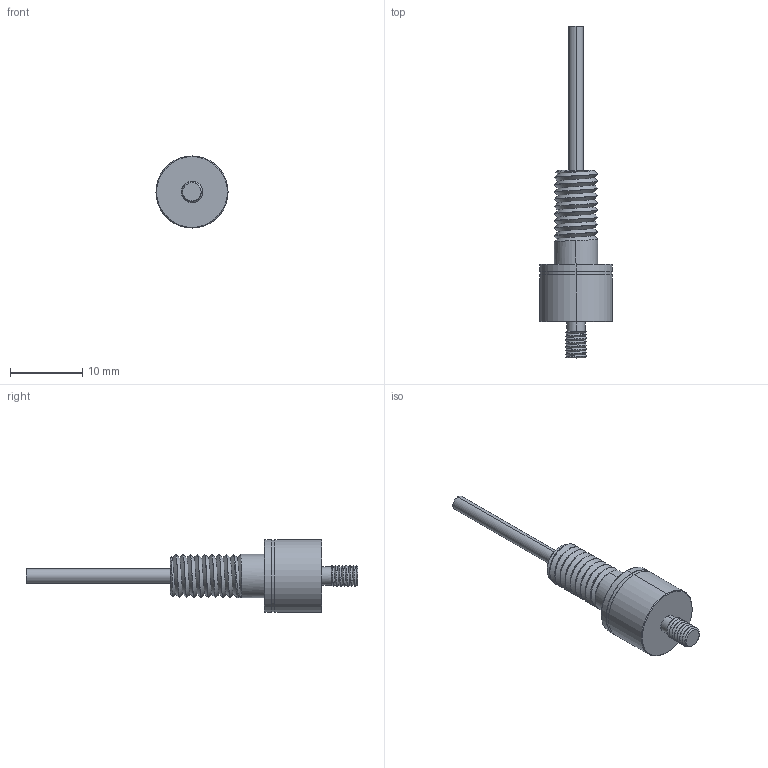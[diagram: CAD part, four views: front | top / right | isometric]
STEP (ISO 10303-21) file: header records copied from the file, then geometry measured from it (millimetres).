
FILE_DESCRIPTION (( 'STEP AP203' ), '1' );
FILE_NAME ('LCR1A.STEP', '2024-07-16T03:21:47', ( '' ), ( '' ), 'SwSTEP 2.0', 'SolidWorks 2019', '' );
FILE_SCHEMA (( 'CONFIG_CONTROL_DESIGN' ));
Length unit declared in the file: millimetre
Products named in the file (1): LCR1A
Bounding box: 10 x 46 x 10 mm (x, y, z)
Volume: 1043.3 mm3; surface area: 882.2 mm2
Topology: 1 solids, 1 shells, 68 faces, 278 edges, 217 vertices
Faces by surface type: cylinder 45, cone 10, plane 9, bspline 4
Entity records: 5492 total; most frequent: CARTESIAN_POINT 3432, ORIENTED_EDGE 556, EDGE_CURVE 278, DIRECTION 251, VERTEX_POINT 217, B_SPLINE_CURVE_WITH_KNOTS 162, AXIS2_PLACEMENT_3D 101, EDGE_LOOP 73
